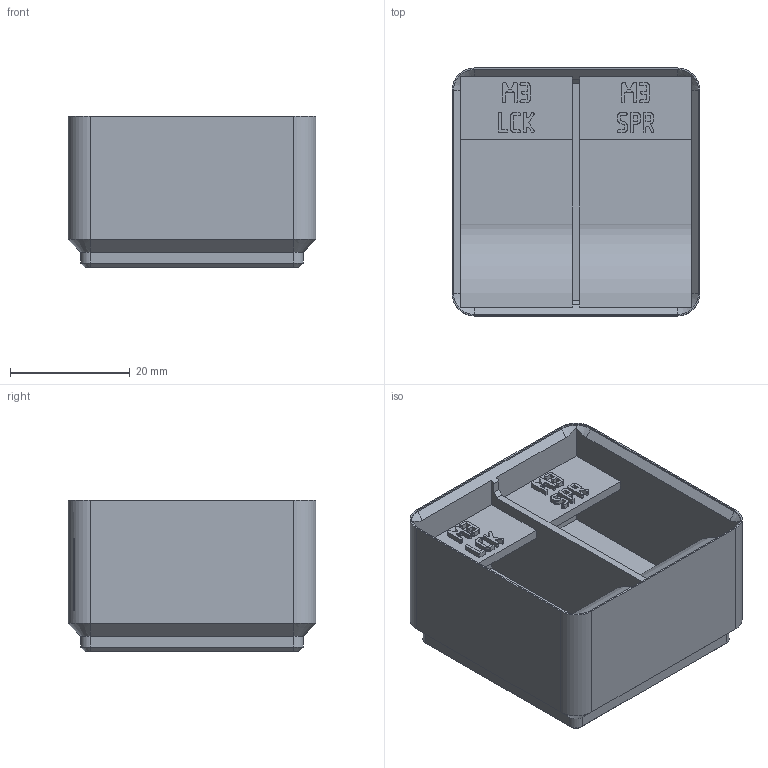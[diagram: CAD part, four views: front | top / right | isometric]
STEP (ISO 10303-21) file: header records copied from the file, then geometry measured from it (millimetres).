
FILE_DESCRIPTION(('Open CASCADE Model'),'2;1');
FILE_NAME('Open CASCADE Shape Model','2026-11-16T13:40:31',('Author'),( 'Open CASCADE'),'Open CASCADE STEP processor 8.0','build123d', 'Unknown');
FILE_SCHEMA(('AUTOMOTIVE_DESIGN { 1 0 10303 214 1 1 1 1 }'));
Products named in the file (1): SOLID
Bounding box: 41.5 x 41.5 x 25.4 mm (x, y, z)
Volume: 22103.1 mm3; surface area: 10739.2 mm2
Topology: 1 solids, 1 shells, 1159 faces, 3394 edges, 2252 vertices
Faces by surface type: plane 1133, cylinder 14, cone 12
Entity records: 79486 total; most frequent: CARTESIAN_POINT 16076, DIRECTION 10182, LINE 7762, VECTOR 7762, ORIENTED_EDGE 6788, PCURVE 6788, DEFINITIONAL_REPRESENTATION 6788, EDGE_CURVE 3394
